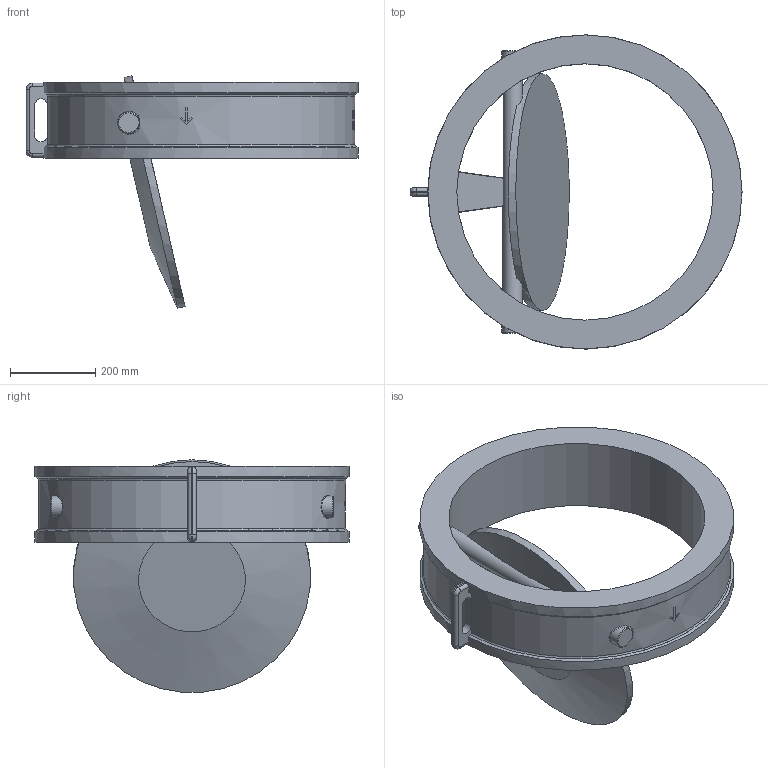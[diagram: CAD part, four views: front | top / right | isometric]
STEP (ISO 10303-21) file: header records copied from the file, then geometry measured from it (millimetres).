
FILE_DESCRIPTION( ( 'Unknown' ), '1' );
FILE_NAME( 'C:/Documents and Settings/Klaus/My Documents/Rootsi BPS 3D, Klaus/BPS 6530 tilting disc check valve/STEP/BPS6530600 tilting disc check valve DN600.stp', 'Unknown', ( 'Unknown' ), ( 'Unknown' ), 'PSStep 10.1', 'Unknown', ' ' );
FILE_SCHEMA( ( 'AUTOMOTIVE_DESIGN { 1 0 10303 214 1 1 1 1 }' ) );
Length unit declared in the file: millimetre
Products named in the file (1): 1
Bounding box: 777 x 735 x 543.81 mm (x, y, z)
Volume: 32506959.5 mm3; surface area: 1622484.7 mm2
Topology: 1 solids, 1 shells, 224 faces, 541 edges, 353 vertices
Faces by surface type: bspline 92, plane 71, cylinder 53, cone 4, torus 4
Full cylindrical faces by diameter (mm): 45 x1, 555 x1, 600 x1, 735 x2
Entity records: 27555 total; most frequent: CARTESIAN_POINT 21670, ORIENTED_EDGE 1036, EDGE_CURVE 518, DIRECTION 422, B_SPLINE_CURVE_WITH_KNOTS 419, VERTEX_POINT 347, EDGE_LOOP 283, FACE_OUTER_BOUND 239
